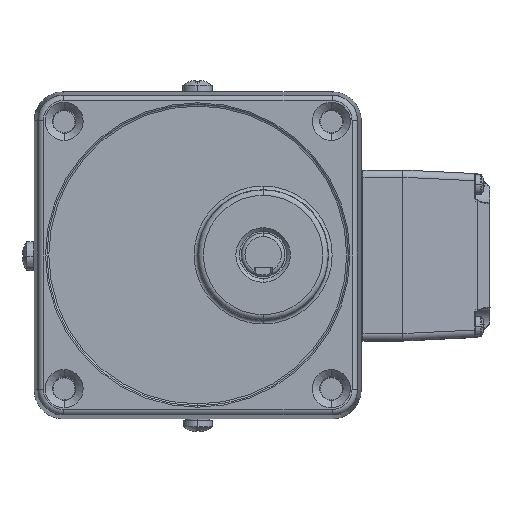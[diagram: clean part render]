
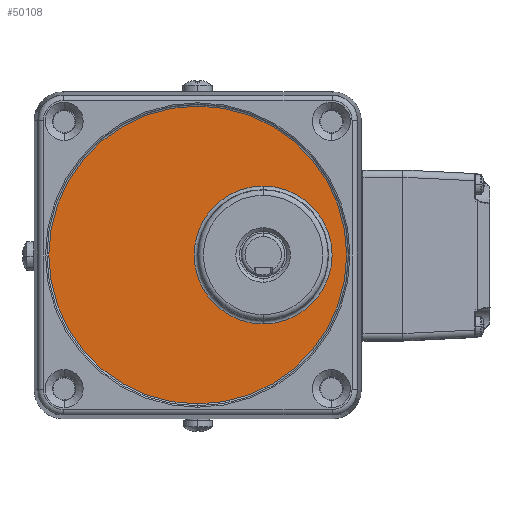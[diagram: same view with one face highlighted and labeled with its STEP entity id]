
A CAD part, top view. The second image highlights one B-rep face of the part: STEP entity #50108.
In plain terms, the highlighted planar face has unit normal (0, 0, 1) as drawn and (1, 0, 0) by its records, which use the part's own axes.
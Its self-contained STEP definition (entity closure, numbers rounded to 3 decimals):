
#648 = ORIENTED_EDGE ( 'NONE', *, *, #7564, .F. ) ;
#1434 = CARTESIAN_POINT ( 'NONE',  ( 2697.792, -775.157, 18. ) ) ;
#2980 = VERTEX_POINT ( 'NONE', #42048 ) ;
#3274 = CARTESIAN_POINT ( 'NONE',  ( 2697.792, -775.157, 18. ) ) ;
#3636 = CIRCLE ( 'NONE', #9890, 18.983 ) ;
#3640 = CARTESIAN_POINT ( 'NONE',  ( 2697.792, -794.14, 18. ) ) ;
#5917 = ORIENTED_EDGE ( 'NONE', *, *, #18838, .F. ) ;
#6057 = EDGE_CURVE ( 'NONE', #51901, #42016, #10233, .T. ) ;
#6284 = CARTESIAN_POINT ( 'NONE',  ( 2697.792, -775.157, 0. ) ) ;
#7564 = EDGE_CURVE ( 'NONE', #2980, #30619, #3636, .T. ) ;
#9890 = AXIS2_PLACEMENT_3D ( 'NONE', #1434, #18342, #35238 ) ;
#10233 = CIRCLE ( 'NONE', #11011, 40.991 ) ;
#11011 = AXIS2_PLACEMENT_3D ( 'NONE', #35499, #52509, #14460 ) ;
#12919 = CARTESIAN_POINT ( 'NONE',  ( 2697.792, -816.149, 0. ) ) ;
#13419 = AXIS2_PLACEMENT_3D ( 'NONE', #15126, #32022, #49000 ) ;
#13959 = ORIENTED_EDGE ( 'NONE', *, *, #15985, .F. ) ;
#14460 = DIRECTION ( 'NONE',  ( 0., -1., 0. ) ) ;
#15126 = CARTESIAN_POINT ( 'NONE',  ( 2697.792, -775.157, 0. ) ) ;
#15985 = EDGE_CURVE ( 'NONE', #30619, #2980, #42779, .T. ) ;
#18342 = DIRECTION ( 'NONE',  ( 1., 0., 0. ) ) ;
#18838 = EDGE_CURVE ( 'NONE', #42016, #51901, #47856, .T. ) ;
#18849 = AXIS2_PLACEMENT_3D ( 'NONE', #3274, #20176, #37085 ) ;
#19288 = FACE_OUTER_BOUND ( 'NONE', #26616, .T. ) ;
#20176 = DIRECTION ( 'NONE',  ( 1., 0., 0. ) ) ;
#23183 = DIRECTION ( 'NONE',  ( -1., 0., 0. ) ) ;
#23894 = AXIS2_PLACEMENT_3D ( 'NONE', #6284, #23183, #40109 ) ;
#26616 = EDGE_LOOP ( 'NONE', ( #40009, #5917 ) ) ;
#30619 = VERTEX_POINT ( 'NONE', #3640 ) ;
#32022 = DIRECTION ( 'NONE',  ( 1., 0., 0. ) ) ;
#35238 = DIRECTION ( 'NONE',  ( 0., 1., 0. ) ) ;
#35499 = CARTESIAN_POINT ( 'NONE',  ( 2697.792, -775.157, 0. ) ) ;
#35978 = CARTESIAN_POINT ( 'NONE',  ( 2697.792, -734.166, 0. ) ) ;
#36043 = EDGE_LOOP ( 'NONE', ( #13959, #648 ) ) ;
#36181 = FACE_BOUND ( 'NONE', #36043, .T. ) ;
#37085 = DIRECTION ( 'NONE',  ( 0., -1., 0. ) ) ;
#40009 = ORIENTED_EDGE ( 'NONE', *, *, #6057, .F. ) ;
#40109 = DIRECTION ( 'NONE',  ( 0., 1., 0. ) ) ;
#42016 = VERTEX_POINT ( 'NONE', #35978 ) ;
#42048 = CARTESIAN_POINT ( 'NONE',  ( 2697.792, -756.175, 18. ) ) ;
#42779 = CIRCLE ( 'NONE', #18849, 18.983 ) ;
#47856 = CIRCLE ( 'NONE', #23894, 40.991 ) ;
#49000 = DIRECTION ( 'NONE',  ( 0., 1., 0. ) ) ;
#50108 = ADVANCED_FACE ( 'NONE', ( #19288, #36181 ), #53197, .T. ) ;
#51901 = VERTEX_POINT ( 'NONE', #12919 ) ;
#52509 = DIRECTION ( 'NONE',  ( -1., 0., 0. ) ) ;
#53197 = PLANE ( 'NONE',  #13419 ) ;
